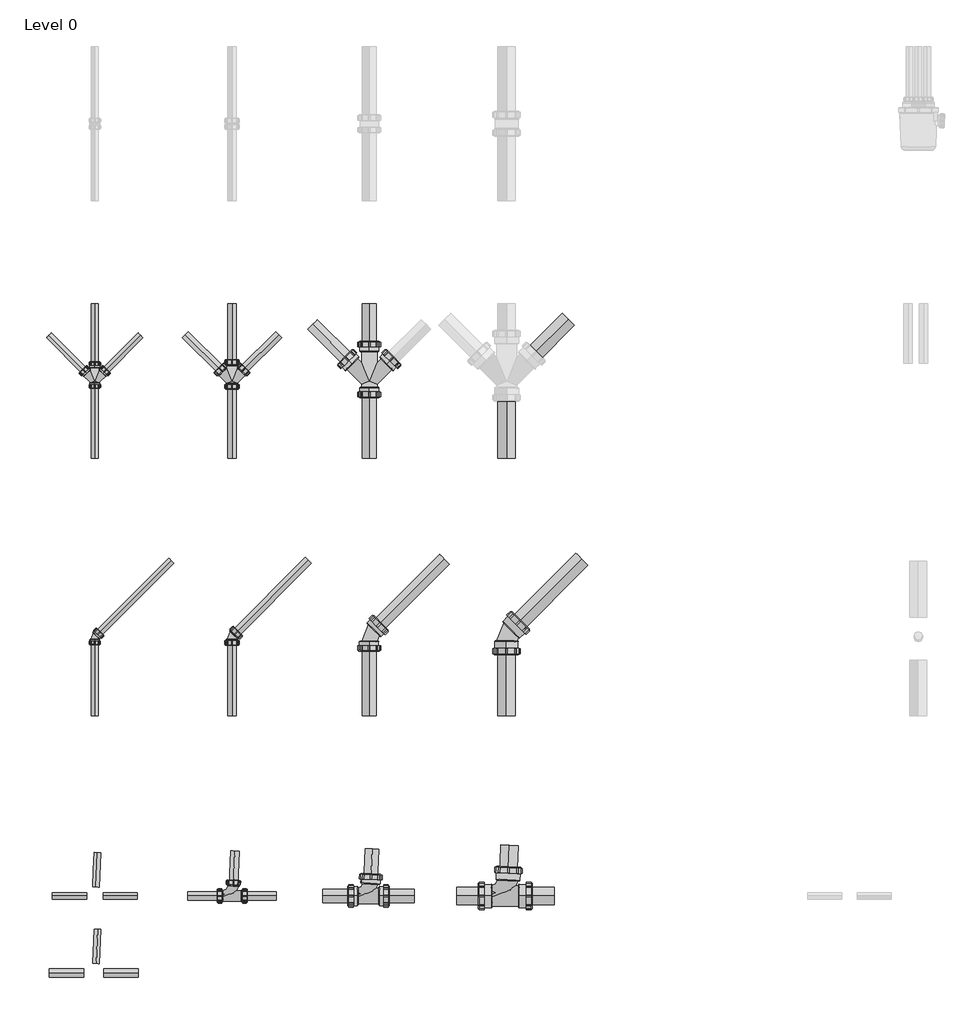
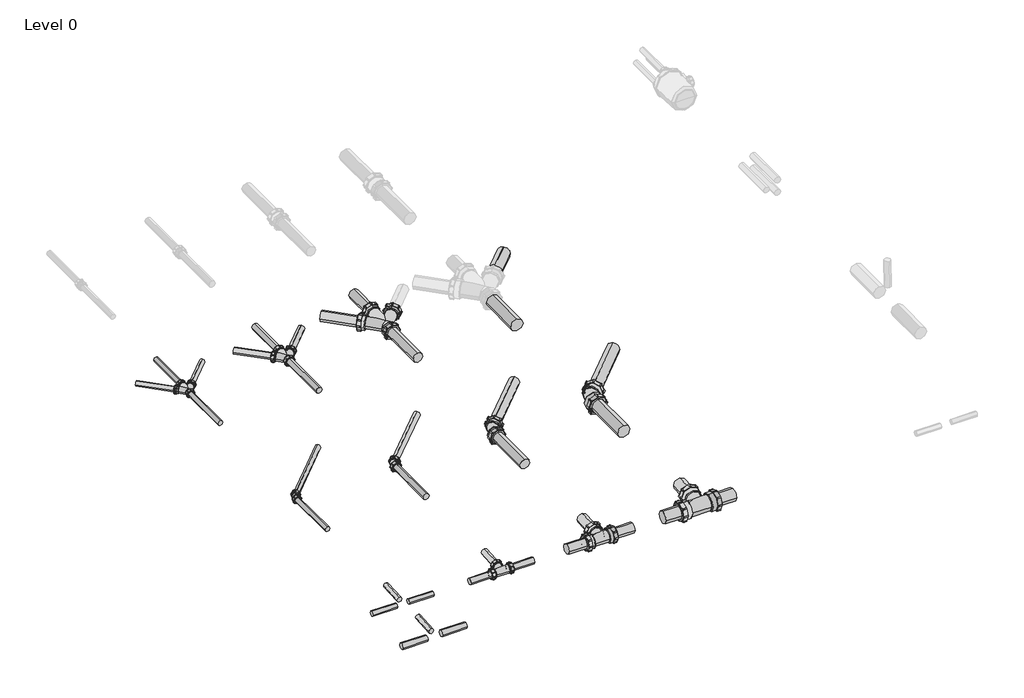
# One storey, part 1 of 5: 46 pipe fittings.
"""IFC4 building model written with IfcOpenShell, lengths in millimetres."""

from ifc_helpers import new_model, si_unit, point, frame, frame_2d, origin, place, context, project, spatial, circle_curve, trimmed, segment, composite_curve, outline, extrude, transform, mapped, element, save
from components import w191_1_5inch_38mm_0de2b571, w192_2inch_51mm_91547f29, w193_3inch_76mm_4dbc38d3, w194_4inch_102mm_52f977a8, w202_2inch_51mm_4147cbe4, w202_2inch_51mm_a334517c, w203_3inch_76mm_116432e9, w203_3inch_76mm_561039bf, w204_4inch_102mm_7354dc11, w204_4inch_102mm_a8dd6bf8, w381_1_5inch_38mm_807b89dd, w381_1_5inch_38mm_ffda3298, w382_2inch_51mm_2cd0ae31, w382_2inch_51mm_790bf67c, w383_3inch_76mm_12d81fef, w383_3inch_76mm_d16cb87b

model = new_model("IFC4")

# Units and contexts
model_context = context("Model", 3, world=origin())
ifc_project = project(units=[si_unit("LENGTHUNIT", "METRE", prefix="MILLI")], contexts=[model_context])

# Site, building, storey
site = spatial("IfcSite", under=ifc_project)
building = spatial("IfcBuilding", under=site)
storey = spatial("IfcBuildingStorey", under=building, Name="Level 0", Elevation=0.0)

# Pipe fittings
placement = place(None, origin())
element("IfcPipeFitting", 1, ObjectType="Vulcathene Mechanical Pipe", at=placement, inside=storey, context=model_context, shape_type="SweptSolid", body=[
    extrude(outline(composite_curve([segment(trimmed(circle_curve(frame_2d((0.0, -19657.9793828)), 20.0), [point((0.0, -19677.9793828))], [point((-20.0, -19657.9793828))], False, "CARTESIAN"), True, "CONTINUOUS"), segment(trimmed(circle_curve(frame_2d((0.0, -19657.9793828)), 20.0), [point((-20.0, -19657.9793828))], [point((0.0, -19637.9793828))], False, "CARTESIAN"), True, "CONTINUOUS"), segment(trimmed(circle_curve(frame_2d((0.0, -19657.9793828)), 20.0), [point((0.0, -19637.9793828))], [point((20.0, -19657.9793828))], False, "CARTESIAN"), True, "CONTINUOUS"), segment(trimmed(circle_curve(frame_2d((0.0, -19657.9793828)), 20.0), [point((20.0, -19657.9793828))], [point((0.0, -19677.9793828))], False, "CARTESIAN"), True, "CONTINUOUS")], self_intersect=False)), frame((0.0, 5214.6035033, 0.0), z_axis=(0.0, 1.0, 0.0), x_axis=(0.0, 0.0, 1.0)), (0.0, 0.0, 1.0), 430.1),
])
element("IfcPipeFitting", 2, ObjectType="Vulcathene Mechanical Pipe", at=placement, inside=storey, context=model_context, shape_type="SweptSolid", body=[
    extrude(outline(composite_curve([segment(trimmed(circle_curve(frame_2d((0.0, -18857.9793828)), 25.0), [point((0.0, -18882.9793828))], [point((-25.0, -18857.9793828))], False, "CARTESIAN"), True, "CONTINUOUS"), segment(trimmed(circle_curve(frame_2d((0.0, -18857.9793828)), 25.0), [point((-25.0, -18857.9793828))], [point((0.0, -18832.9793828))], False, "CARTESIAN"), True, "CONTINUOUS"), segment(trimmed(circle_curve(frame_2d((0.0, -18857.9793828)), 25.0), [point((0.0, -18832.9793828))], [point((25.0, -18857.9793828))], False, "CARTESIAN"), True, "CONTINUOUS"), segment(trimmed(circle_curve(frame_2d((0.0, -18857.9793828)), 25.0), [point((25.0, -18857.9793828))], [point((0.0, -18882.9793828))], False, "CARTESIAN"), True, "CONTINUOUS")], self_intersect=False)), frame((0.0, 5214.6035033, 0.0), z_axis=(0.0, 1.0, 0.0), x_axis=(0.0, 0.0, 1.0)), (0.0, 0.0, 1.0), 429.5),
])
element("IfcPipeFitting", 3, ObjectType="Vulcathene Mechanical Pipe", at=placement, inside=storey, context=model_context, shape_type="SweptSolid", body=[
    extrude(outline(composite_curve([segment(trimmed(circle_curve(frame_2d((0.0, -18057.9793828)), 40.0), [point((0.0, -18097.9793828))], [point((-40.0, -18057.9793828))], False, "CARTESIAN"), True, "CONTINUOUS"), segment(trimmed(circle_curve(frame_2d((0.0, -18057.9793828)), 40.0), [point((-40.0, -18057.9793828))], [point((0.0, -18017.9793828))], False, "CARTESIAN"), True, "CONTINUOUS"), segment(trimmed(circle_curve(frame_2d((0.0, -18057.9793828)), 40.0), [point((0.0, -18017.9793828))], [point((40.0, -18057.9793828))], False, "CARTESIAN"), True, "CONTINUOUS"), segment(trimmed(circle_curve(frame_2d((0.0, -18057.9793828)), 40.0), [point((40.0, -18057.9793828))], [point((0.0, -18097.9793828))], False, "CARTESIAN"), True, "CONTINUOUS")], self_intersect=False)), frame((0.0, 5214.6035033, 0.0), z_axis=(0.0, 1.0, 0.0), x_axis=(0.0, 0.0, 1.0)), (0.0, 0.0, 1.0), 387.3),
])
element("IfcPipeFitting", 4, ObjectType="Vulcathene Mechanical Pipe", at=placement, inside=storey, context=model_context, shape_type="SweptSolid", body=[
    extrude(outline(composite_curve([segment(trimmed(circle_curve(frame_2d((0.0, -17257.9793828)), 50.0), [point((0.0, -17307.9793828))], [point((-50.0, -17257.9793828))], False, "CARTESIAN"), True, "CONTINUOUS"), segment(trimmed(circle_curve(frame_2d((0.0, -17257.9793828)), 50.0), [point((-50.0, -17257.9793828))], [point((0.0, -17207.9793828))], False, "CARTESIAN"), True, "CONTINUOUS"), segment(trimmed(circle_curve(frame_2d((0.0, -17257.9793828)), 50.0), [point((0.0, -17207.9793828))], [point((50.0, -17257.9793828))], False, "CARTESIAN"), True, "CONTINUOUS"), segment(trimmed(circle_curve(frame_2d((0.0, -17257.9793828)), 50.0), [point((50.0, -17257.9793828))], [point((0.0, -17307.9793828))], False, "CARTESIAN"), True, "CONTINUOUS")], self_intersect=False)), frame((0.0, 5214.6035033, 0.0), z_axis=(0.0, 1.0, 0.0), x_axis=(0.0, 0.0, 1.0)), (0.0, 0.0, 1.0), 370.8),
])
element("IfcPipeFitting", 5, ObjectType="Vulcathene Mechanical Pipe", at=placement, inside=storey, context=model_context, shape_type="SweptSolid", body=[
    extrude(outline(composite_curve([segment(trimmed(circle_curve(frame_2d((0.0, 50.0)), 50.0), [point((50.0, 50.0))], [point((0.0, 0.0))], False, "CARTESIAN"), True, "CONTINUOUS"), segment(trimmed(circle_curve(frame_2d((0.0, 50.0)), 50.0), [point((0.0, 0.0))], [point((-50.0, 50.0))], False, "CARTESIAN"), True, "CONTINUOUS"), segment(trimmed(circle_curve(frame_2d((0.0, 50.0)), 50.0), [point((-50.0, 50.0))], [point((0.0, 100.0))], False, "CARTESIAN"), True, "CONTINUOUS"), segment(trimmed(circle_curve(frame_2d((0.0, 50.0)), 50.0), [point((0.0, 100.0))], [point((50.0, 50.0))], False, "CARTESIAN"), True, "CONTINUOUS")], self_intersect=False)), frame((-17109.9112229, 5812.6716632, 50.0), z_axis=(0.7071067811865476, 0.7071067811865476, 0.0), x_axis=(0.7071067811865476, -0.7071067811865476, 0.0)), (0.0, 0.0, 1.0), 300.0),
])
element("IfcPipeFitting", 6, ObjectType="Vulcathene Mechanical Pipe", at=placement, inside=storey, context=model_context, shape_type="SweptSolid", body=[
    extrude(outline(composite_curve([segment(trimmed(circle_curve(frame_2d((0.0, -18057.9793828)), 40.0), [point((0.0, -18097.9793828))], [point((-40.0, -18057.9793828))], False, "CARTESIAN"), True, "CONTINUOUS"), segment(trimmed(circle_curve(frame_2d((0.0, -18057.9793828)), 40.0), [point((-40.0, -18057.9793828))], [point((0.0, -18017.9793828))], False, "CARTESIAN"), True, "CONTINUOUS"), segment(trimmed(circle_curve(frame_2d((0.0, -18057.9793828)), 40.0), [point((0.0, -18017.9793828))], [point((40.0, -18057.9793828))], False, "CARTESIAN"), True, "CONTINUOUS"), segment(trimmed(circle_curve(frame_2d((0.0, -18057.9793828)), 40.0), [point((40.0, -18057.9793828))], [point((0.0, -18097.9793828))], False, "CARTESIAN"), True, "CONTINUOUS")], self_intersect=False)), frame((0.0, 5863.8035033, 0.0), z_axis=(0.0, 1.0, 0.0), x_axis=(0.0, 0.0, 1.0)), (0.0, 0.0, 1.0), 250.8),
])
element("IfcPipeFitting", 7, ObjectType="Vulcathene Mechanical Pipe", at=placement, inside=storey, context=model_context, shape_type="SweptSolid", body=[
    extrude(outline(composite_curve([segment(trimmed(circle_curve(frame_2d((0.0, 25.0)), 25.0), [point((25.0, 25.0))], [point((0.0, 0.0))], False, "CARTESIAN"), True, "CONTINUOUS"), segment(trimmed(circle_curve(frame_2d((0.0, 25.0)), 25.0), [point((0.0, 0.0))], [point((-25.0, 25.0))], False, "CARTESIAN"), True, "CONTINUOUS"), segment(trimmed(circle_curve(frame_2d((0.0, 25.0)), 25.0), [point((-25.0, 25.0))], [point((0.0, 50.0))], False, "CARTESIAN"), True, "CONTINUOUS"), segment(trimmed(circle_curve(frame_2d((0.0, 25.0)), 25.0), [point((0.0, 50.0))], [point((25.0, 25.0))], False, "CARTESIAN"), True, "CONTINUOUS")], self_intersect=False)), frame((-18798.4409919, 5724.1418942, 25.0), z_axis=(0.7071067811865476, 0.7071067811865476, 0.0), x_axis=(0.7071067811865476, -0.7071067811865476, 0.0)), (0.0, 0.0, 1.0), 300.0),
])
element("IfcPipeFitting", 8, ObjectType="Vulcathene Mechanical Pipe", at=placement, inside=storey, context=model_context, shape_type="SweptSolid", body=[
    extrude(outline(composite_curve([segment(trimmed(circle_curve(frame_2d((0.0, -18857.9793828)), 25.0), [point((0.0, -18882.9793828))], [point((-25.0, -18857.9793828))], False, "CARTESIAN"), True, "CONTINUOUS"), segment(trimmed(circle_curve(frame_2d((0.0, -18857.9793828)), 25.0), [point((-25.0, -18857.9793828))], [point((0.0, -18832.9793828))], False, "CARTESIAN"), True, "CONTINUOUS"), segment(trimmed(circle_curve(frame_2d((0.0, -18857.9793828)), 25.0), [point((0.0, -18832.9793828))], [point((25.0, -18857.9793828))], False, "CARTESIAN"), True, "CONTINUOUS"), segment(trimmed(circle_curve(frame_2d((0.0, -18857.9793828)), 25.0), [point((25.0, -18857.9793828))], [point((0.0, -18882.9793828))], False, "CARTESIAN"), True, "CONTINUOUS")], self_intersect=False)), frame((0.0, 5763.3035033, 0.0), z_axis=(0.0, 1.0, 0.0), x_axis=(0.0, 0.0, 1.0)), (0.0, 0.0, 1.0), 351.3),
])
element("IfcPipeFitting", 9, ObjectType="Vulcathene Mechanical Pipe", at=placement, inside=storey, context=model_context, shape_type="SweptSolid", body=[
    extrude(outline(composite_curve([segment(trimmed(circle_curve(frame_2d((0.0, 20.0)), 20.0), [point((20.0, 20.0))], [point((0.0, 0.0))], False, "CARTESIAN"), True, "CONTINUOUS"), segment(trimmed(circle_curve(frame_2d((0.0, 20.0)), 20.0), [point((0.0, 0.0))], [point((-20.0, 20.0))], False, "CARTESIAN"), True, "CONTINUOUS"), segment(trimmed(circle_curve(frame_2d((0.0, 20.0)), 20.0), [point((-20.0, 20.0))], [point((0.0, 40.0))], False, "CARTESIAN"), True, "CONTINUOUS"), segment(trimmed(circle_curve(frame_2d((0.0, 20.0)), 20.0), [point((0.0, 40.0))], [point((20.0, 20.0))], False, "CARTESIAN"), True, "CONTINUOUS")], self_intersect=False)), frame((-19603.3200287, 5719.2628574, 20.0), z_axis=(0.7071067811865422, 0.7071067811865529, 0.0), x_axis=(0.7071067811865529, -0.7071067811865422, 0.0)), (0.0, 0.0, 1.0), 300.0),
])
element("IfcPipeFitting", 10, ObjectType="Vulcathene Mechanical Pipe", at=placement, inside=storey, context=model_context, shape_type="SweptSolid", body=[
    extrude(outline(composite_curve([segment(trimmed(circle_curve(frame_2d((0.0, -19657.9793828)), 20.0), [point((0.0, -19677.9793828))], [point((-20.0, -19657.9793828))], False, "CARTESIAN"), True, "CONTINUOUS"), segment(trimmed(circle_curve(frame_2d((0.0, -19657.9793828)), 20.0), [point((-20.0, -19657.9793828))], [point((0.0, -19637.9793828))], False, "CARTESIAN"), True, "CONTINUOUS"), segment(trimmed(circle_curve(frame_2d((0.0, -19657.9793828)), 20.0), [point((0.0, -19637.9793828))], [point((20.0, -19657.9793828))], False, "CARTESIAN"), True, "CONTINUOUS"), segment(trimmed(circle_curve(frame_2d((0.0, -19657.9793828)), 20.0), [point((20.0, -19657.9793828))], [point((0.0, -19677.9793828))], False, "CARTESIAN"), True, "CONTINUOUS")], self_intersect=False)), frame((0.0, 5755.9035033, 0.0), z_axis=(0.0, 1.0, 0.0), x_axis=(0.0, 0.0, 1.0)), (0.0, 0.0, 1.0), 358.7),
])
element("IfcPipeFitting", 11, ObjectType="Vulcathene Mechanical Pipe", at=placement, inside=storey, context=model_context, shape_type="SweptSolid", body=[
    extrude(outline(composite_curve([segment(trimmed(circle_curve(frame_2d((0.0, 40.0)), 40.0), [point((40.0000001, 40.0))], [point((0.0, 0.0))], False, "CARTESIAN"), True, "CONTINUOUS"), segment(trimmed(circle_curve(frame_2d((0.0, 40.0)), 40.0), [point((0.0, 0.0))], [point((-39.9999999, 40.0))], False, "CARTESIAN"), True, "CONTINUOUS"), segment(trimmed(circle_curve(frame_2d((0.0, 40.0)), 40.0), [point((-39.9999999, 40.0))], [point((0.0, 80.0))], False, "CARTESIAN"), True, "CONTINUOUS"), segment(trimmed(circle_curve(frame_2d((0.0, 40.0)), 40.0), [point((0.0, 80.0))], [point((40.0000001, 40.0))], False, "CARTESIAN"), True, "CONTINUOUS")], self_intersect=False)), frame((-18176.4197687, 5783.0438891, 40.0), z_axis=(-0.7071067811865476, 0.7071067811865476, 0.0), x_axis=(0.7071067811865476, 0.7071067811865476, 0.0)), (0.0, 0.0, 1.0), 300.0),
])
element("IfcPipeFitting", 12, ObjectType="Vulcathene Mechanical Pipe", at=placement, inside=storey, context=model_context, shape_type="SweptSolid", body=[
    extrude(outline(composite_curve([segment(trimmed(circle_curve(frame_2d((0.0, 25.0)), 25.0), [point((25.0, 25.0))], [point((0.0, 0.0))], False, "CARTESIAN"), True, "CONTINUOUS"), segment(trimmed(circle_curve(frame_2d((0.0, 25.0)), 25.0), [point((0.0, 0.0))], [point((-25.0, 25.0))], False, "CARTESIAN"), True, "CONTINUOUS"), segment(trimmed(circle_curve(frame_2d((0.0, 25.0)), 25.0), [point((-25.0, 25.0))], [point((0.0, 50.0))], False, "CARTESIAN"), True, "CONTINUOUS"), segment(trimmed(circle_curve(frame_2d((0.0, 25.0)), 25.0), [point((0.0, 50.0))], [point((25.0, 25.0))], False, "CARTESIAN"), True, "CONTINUOUS")], self_intersect=False)), frame((-18917.5177738, 5724.1418942, 25.0), z_axis=(-0.7071067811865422, 0.7071067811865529, 0.0), x_axis=(0.7071067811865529, 0.7071067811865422, 0.0)), (0.0, 0.0, 1.0), 300.0),
])
element("IfcPipeFitting", 13, ObjectType="Vulcathene Mechanical Pipe", at=placement, inside=storey, context=model_context, shape_type="SweptSolid", body=[
    extrude(outline(composite_curve([segment(trimmed(circle_curve(frame_2d((0.0, 20.0)), 20.0), [point((20.0, 20.0))], [point((0.0, 0.0))], False, "CARTESIAN"), True, "CONTINUOUS"), segment(trimmed(circle_curve(frame_2d((0.0, 20.0)), 20.0), [point((0.0, 0.0))], [point((-20.0, 20.0))], False, "CARTESIAN"), True, "CONTINUOUS"), segment(trimmed(circle_curve(frame_2d((0.0, 20.0)), 20.0), [point((-20.0, 20.0))], [point((0.0, 40.0))], False, "CARTESIAN"), True, "CONTINUOUS"), segment(trimmed(circle_curve(frame_2d((0.0, 20.0)), 20.0), [point((0.0, 40.0))], [point((20.0, 20.0))], False, "CARTESIAN"), True, "CONTINUOUS")], self_intersect=False)), frame((-19712.638737, 5719.2628574, 20.0), z_axis=(-0.7071067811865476, 0.7071067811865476, 0.0), x_axis=(0.7071067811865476, 0.7071067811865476, 0.0)), (0.0, 0.0, 1.0), 300.0),
])
element("IfcPipeFitting", 14, ObjectType="Vulcathene Mechanical Pipe", at=placement, inside=storey, context=model_context, shape_type="SweptSolid", body=[
    extrude(outline(composite_curve([segment(trimmed(circle_curve(frame_2d((0.0, -19657.9793828)), 20.0), [point((0.0, -19677.9793828))], [point((-20.0, -19657.9793828))], False, "CARTESIAN"), True, "CONTINUOUS"), segment(trimmed(circle_curve(frame_2d((0.0, -19657.9793828)), 20.0), [point((-20.0, -19657.9793828))], [point((0.0, -19637.9793828))], False, "CARTESIAN"), True, "CONTINUOUS"), segment(trimmed(circle_curve(frame_2d((0.0, -19657.9793828)), 20.0), [point((0.0, -19637.9793828))], [point((20.0, -19657.9793828))], False, "CARTESIAN"), True, "CONTINUOUS"), segment(trimmed(circle_curve(frame_2d((0.0, -19657.9793828)), 20.0), [point((20.0, -19657.9793828))], [point((0.0, -19677.9793828))], False, "CARTESIAN"), True, "CONTINUOUS")], self_intersect=False)), frame((0.0, 3714.6035033, 0.0), z_axis=(0.0, 1.0, 0.0), x_axis=(0.0, 0.0, 1.0)), (0.0, 0.0, 1.0), 442.7198074),
])
element("IfcPipeFitting", 15, ObjectType="Vulcathene Mechanical Pipe", at=placement, inside=storey, context=model_context, shape_type="SweptSolid", body=[
    extrude(outline(composite_curve([segment(trimmed(circle_curve(frame_2d((0.0, -18857.9793828)), 25.0), [point((0.0, -18882.9793828))], [point((-25.0, -18857.9793828))], False, "CARTESIAN"), True, "CONTINUOUS"), segment(trimmed(circle_curve(frame_2d((0.0, -18857.9793828)), 25.0), [point((-25.0, -18857.9793828))], [point((0.0, -18832.9793828))], False, "CARTESIAN"), True, "CONTINUOUS"), segment(trimmed(circle_curve(frame_2d((0.0, -18857.9793828)), 25.0), [point((0.0, -18832.9793828))], [point((25.0, -18857.9793828))], False, "CARTESIAN"), True, "CONTINUOUS"), segment(trimmed(circle_curve(frame_2d((0.0, -18857.9793828)), 25.0), [point((25.0, -18857.9793828))], [point((0.0, -18882.9793828))], False, "CARTESIAN"), True, "CONTINUOUS")], self_intersect=False)), frame((0.0, 3714.6035033, 0.0), z_axis=(0.0, 1.0, 0.0), x_axis=(0.0, 0.0, 1.0)), (0.0, 0.0, 1.0), 440.9494873),
])
element("IfcPipeFitting", 16, ObjectType="Vulcathene Mechanical Pipe", at=placement, inside=storey, context=model_context, shape_type="SweptSolid", body=[
    extrude(outline(composite_curve([segment(trimmed(circle_curve(frame_2d((0.0, -18058.7826963)), 40.0), [point((0.0, -18098.7826963))], [point((-40.0, -18058.7826963))], False, "CARTESIAN"), True, "CONTINUOUS"), segment(trimmed(circle_curve(frame_2d((0.0, -18058.7826963)), 40.0), [point((-40.0, -18058.7826963))], [point((0.0, -18018.7826963))], False, "CARTESIAN"), True, "CONTINUOUS"), segment(trimmed(circle_curve(frame_2d((0.0, -18058.7826963)), 40.0), [point((0.0, -18018.7826963))], [point((40.0, -18058.7826963))], False, "CARTESIAN"), True, "CONTINUOUS"), segment(trimmed(circle_curve(frame_2d((0.0, -18058.7826963)), 40.0), [point((40.0, -18058.7826963))], [point((0.0, -18098.7826963))], False, "CARTESIAN"), True, "CONTINUOUS")], self_intersect=False)), frame((0.0, 3714.6035033, 0.0), z_axis=(0.0, 1.0, 0.0), x_axis=(0.0, 0.0, 1.0)), (0.0, 0.0, 1.0), 430.1188866),
])
element("IfcPipeFitting", 17, ObjectType="Vulcathene Mechanical Pipe", at=placement, inside=storey, context=model_context, shape_type="SweptSolid", body=[
    extrude(outline(composite_curve([segment(trimmed(circle_curve(frame_2d((0.0, -17258.7590684)), 50.0), [point((0.0, -17308.7590684))], [point((-50.0, -17258.7590684))], False, "CARTESIAN"), True, "CONTINUOUS"), segment(trimmed(circle_curve(frame_2d((0.0, -17258.7590684)), 50.0), [point((-50.0, -17258.7590684))], [point((0.0, -17208.7590684))], False, "CARTESIAN"), True, "CONTINUOUS"), segment(trimmed(circle_curve(frame_2d((0.0, -17258.7590684)), 50.0), [point((0.0, -17208.7590684))], [point((50.0, -17258.7590684))], False, "CARTESIAN"), True, "CONTINUOUS"), segment(trimmed(circle_curve(frame_2d((0.0, -17258.7590684)), 50.0), [point((50.0, -17258.7590684))], [point((0.0, -17308.7590684))], False, "CARTESIAN"), True, "CONTINUOUS")], self_intersect=False)), frame((0.0, 3714.6035033, 0.0), z_axis=(0.0, 1.0, 0.0), x_axis=(0.0, 0.0, 1.0)), (0.0, 0.0, 1.0), 430.3926212),
])
element("IfcPipeFitting", 18, ObjectType="Vulcathene Mechanical Pipe", at=placement, inside=storey, context=model_context, shape_type="SweptSolid", body=[
    extrude(outline(composite_curve([segment(trimmed(circle_curve(frame_2d((0.0, 20.0)), 20.0), [point((20.0, 20.0))], [point((0.0, 0.0))], False, "CARTESIAN"), True, "CONTINUOUS"), segment(trimmed(circle_curve(frame_2d((0.0, 20.0)), 20.0), [point((0.0, 0.0))], [point((-20.0, 20.0))], False, "CARTESIAN"), True, "CONTINUOUS"), segment(trimmed(circle_curve(frame_2d((0.0, 20.0)), 20.0), [point((-20.0, 20.0))], [point((0.0, 40.0))], False, "CARTESIAN"), True, "CONTINUOUS"), segment(trimmed(circle_curve(frame_2d((0.0, 20.0)), 20.0), [point((0.0, 40.0))], [point((20.0, 20.0))], False, "CARTESIAN"), True, "CONTINUOUS")], self_intersect=False)), frame((-19647.259491, 4183.2034188, 20.0), z_axis=(0.7069505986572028, 0.7072629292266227, 0.0), x_axis=(0.7072629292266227, -0.7069505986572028, 0.0)), (0.0, 0.0, 1.0), 615.6897128),
])
element("IfcPipeFitting", 19, ObjectType="Vulcathene Mechanical Pipe", at=placement, inside=storey, context=model_context, shape_type="SweptSolid", body=[
    extrude(outline(composite_curve([segment(trimmed(circle_curve(frame_2d((0.0, 25.0)), 25.0), [point((25.0, 25.0))], [point((0.0, 0.0))], False, "CARTESIAN"), True, "CONTINUOUS"), segment(trimmed(circle_curve(frame_2d((0.0, 25.0)), 25.0), [point((0.0, 0.0))], [point((-25.0, 25.0))], False, "CARTESIAN"), True, "CONTINUOUS"), segment(trimmed(circle_curve(frame_2d((0.0, 25.0)), 25.0), [point((-25.0, 25.0))], [point((0.0, 50.0))], False, "CARTESIAN"), True, "CONTINUOUS"), segment(trimmed(circle_curve(frame_2d((0.0, 25.0)), 25.0), [point((0.0, 50.0))], [point((25.0, 25.0))], False, "CARTESIAN"), True, "CONTINUOUS")], self_intersect=False)), frame((-18844.6527414, 4187.7263491, 25.0), z_axis=(0.7068619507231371, 0.7073515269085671, 0.0), x_axis=(0.7073515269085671, -0.7068619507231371, 0.0)), (0.0, 0.0, 1.0), 610.6629479),
])
element("IfcPipeFitting", 20, ObjectType="Vulcathene Mechanical Pipe", at=placement, inside=storey, context=model_context, shape_type="SweptSolid", body=[
    extrude(outline(composite_curve([segment(trimmed(circle_curve(frame_2d((0.0, 40.0)), 40.0), [point((40.0000001, 40.0))], [point((0.0, 0.0))], False, "CARTESIAN"), True, "CONTINUOUS"), segment(trimmed(circle_curve(frame_2d((0.0, 40.0)), 40.0), [point((0.0, 0.0))], [point((-39.9999999, 40.0))], False, "CARTESIAN"), True, "CONTINUOUS"), segment(trimmed(circle_curve(frame_2d((0.0, 40.0)), 40.0), [point((-39.9999999, 40.0))], [point((0.0, 80.0))], False, "CARTESIAN"), True, "CONTINUOUS"), segment(trimmed(circle_curve(frame_2d((0.0, 40.0)), 40.0), [point((0.0, 80.0))], [point((40.0000001, 40.0))], False, "CARTESIAN"), True, "CONTINUOUS")], self_intersect=False)), frame((-18028.2925123, 4218.3322058, 40.0), z_axis=(0.7071067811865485, 0.7071067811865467, 0.0), x_axis=(0.7071067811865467, -0.7071067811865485, 0.0)), (0.0, 0.0, 1.0), 577.6456375),
])
element("IfcPipeFitting", 21, ObjectType="Vulcathene Mechanical Pipe", at=placement, inside=storey, context=model_context, shape_type="SweptSolid", body=[
    extrude(outline(composite_curve([segment(trimmed(circle_curve(frame_2d((0.0, 50.0)), 50.0), [point((50.0, 50.0))], [point((0.0, 0.0))], False, "CARTESIAN"), True, "CONTINUOUS"), segment(trimmed(circle_curve(frame_2d((0.0, 50.0)), 50.0), [point((0.0, 0.0))], [point((-50.0, 50.0))], False, "CARTESIAN"), True, "CONTINUOUS"), segment(trimmed(circle_curve(frame_2d((0.0, 50.0)), 50.0), [point((-50.0, 50.0))], [point((0.0, 100.0))], False, "CARTESIAN"), True, "CONTINUOUS"), segment(trimmed(circle_curve(frame_2d((0.0, 50.0)), 50.0), [point((0.0, 100.0))], [point((50.0, 50.0))], False, "CARTESIAN"), True, "CONTINUOUS")], self_intersect=False)), frame((-17228.7082242, 4217.5452802, 50.0), z_axis=(0.7071067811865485, 0.7071067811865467, 0.0), x_axis=(0.7071067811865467, -0.7071067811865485, 0.0)), (0.0, 0.0, 1.0), 578.4887888),
])
element("IfcPipeFitting", 22, ObjectType="Vulcathene Mechanical Pipe", at=placement, inside=storey, context=model_context, shape_type="SweptSolid", body=[
    extrude(outline(composite_curve([segment(trimmed(circle_curve(frame_2d((2664.602162, 0.0)), 20.0), [point((2644.602162, 0.0))], [point((2664.602162, 20.0))], False, "CARTESIAN"), True, "CONTINUOUS"), segment(trimmed(circle_curve(frame_2d((2664.602162, 0.0)), 20.0), [point((2664.602162, 20.0))], [point((2684.602162, 0.0))], False, "CARTESIAN"), True, "CONTINUOUS"), segment(trimmed(circle_curve(frame_2d((2664.602162, 0.0)), 20.0), [point((2684.602162, 0.0))], [point((2664.602162, -20.0))], False, "CARTESIAN"), True, "CONTINUOUS"), segment(trimmed(circle_curve(frame_2d((2664.602162, 0.0)), 20.0), [point((2664.602162, -20.0))], [point((2644.602162, 0.0))], False, "CARTESIAN"), True, "CONTINUOUS")], self_intersect=False)), frame((-19609.1595989, 0.0, 0.0), z_axis=(1.0, 0.0, 0.0), x_axis=(0.0, 1.0, 0.0)), (0.0, 0.0, 1.0), 200.0),
])
element("IfcPipeFitting", 23, ObjectType="Vulcathene Mechanical Pipe", at=placement, inside=storey, context=model_context, shape_type="SweptSolid", body=[
    extrude(outline(composite_curve([segment(trimmed(circle_curve(frame_2d((0.0, 20.0)), 20.0), [point((20.0000001, 20.0))], [point((0.0, 0.0))], False, "CARTESIAN"), True, "CONTINUOUS"), segment(trimmed(circle_curve(frame_2d((0.0, 20.0)), 20.0), [point((0.0, 0.0))], [point((-20.0, 20.0))], False, "CARTESIAN"), True, "CONTINUOUS"), segment(trimmed(circle_curve(frame_2d((0.0, 20.0)), 20.0), [point((-20.0, 20.0))], [point((0.0, 40.0))], False, "CARTESIAN"), True, "CONTINUOUS"), segment(trimmed(circle_curve(frame_2d((0.0, 20.0)), 20.0), [point((0.0, 40.0))], [point((20.0000001, 20.0))], False, "CARTESIAN"), True, "CONTINUOUS")], self_intersect=False)), frame((-19650.8119468, 2717.2030957, 20.0), z_axis=(0.043619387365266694, 0.9990482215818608, 0.0), x_axis=(0.9990482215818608, -0.043619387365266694, 0.0)), (0.0, 0.0, 1.0), 200.0),
])
element("IfcPipeFitting", 24, ObjectType="Vulcathene Mechanical Pipe", at=placement, inside=storey, context=model_context, shape_type="SweptSolid", body=[
    extrude(outline(composite_curve([segment(trimmed(circle_curve(frame_2d((2664.602162, 0.0)), 20.0), [point((2644.602162, 0.0))], [point((2664.602162, 20.0))], False, "CARTESIAN"), True, "CONTINUOUS"), segment(trimmed(circle_curve(frame_2d((2664.602162, 0.0)), 20.0), [point((2664.602162, 20.0))], [point((2684.602162, 0.0))], False, "CARTESIAN"), True, "CONTINUOUS"), segment(trimmed(circle_curve(frame_2d((2664.602162, 0.0)), 20.0), [point((2684.602162, 0.0))], [point((2664.602162, -20.0))], False, "CARTESIAN"), True, "CONTINUOUS"), segment(trimmed(circle_curve(frame_2d((2664.602162, 0.0)), 20.0), [point((2664.602162, -20.0))], [point((2644.602162, 0.0))], False, "CARTESIAN"), True, "CONTINUOUS")], self_intersect=False)), frame((-19905.7595989, 0.0, 0.0), z_axis=(1.0, 0.0, 0.0), x_axis=(0.0, 1.0, 0.0)), (0.0, 0.0, 1.0), 200.0),
])
element("IfcPipeFitting", 25, ObjectType="Vulcathene Mechanical Pipe", at=placement, inside=storey, context=model_context, shape_type="SweptSolid", body=[
    extrude(outline(composite_curve([segment(trimmed(circle_curve(frame_2d((0.0, 25.0)), 25.0), [point((25.0, 25.0))], [point((0.0, 0.0))], False, "CARTESIAN"), True, "CONTINUOUS"), segment(trimmed(circle_curve(frame_2d((0.0, 25.0)), 25.0), [point((0.0, 0.0))], [point((-25.0, 25.0))], False, "CARTESIAN"), True, "CONTINUOUS"), segment(trimmed(circle_curve(frame_2d((0.0, 25.0)), 25.0), [point((-25.0, 25.0))], [point((0.0, 50.0))], False, "CARTESIAN"), True, "CONTINUOUS"), segment(trimmed(circle_curve(frame_2d((0.0, 25.0)), 25.0), [point((0.0, 50.0))], [point((25.0, 25.0))], False, "CARTESIAN"), True, "CONTINUOUS")], self_intersect=False)), frame((-18850.4069089, 2726.4799877, 25.0), z_axis=(0.043619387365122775, 0.9990482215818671, 0.0), x_axis=(0.9990482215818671, -0.043619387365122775, 0.0)), (0.0, 0.0, 1.0), 200.0),
])
element("IfcPipeFitting", 26, ObjectType="Vulcathene Mechanical Pipe", at=placement, inside=storey, context=model_context, shape_type="SweptSolid", body=[
    extrude(outline(composite_curve([segment(trimmed(circle_curve(frame_2d((2664.602162, 0.0)), 25.0), [point((2639.602162, 0.0))], [point((2664.602162, 25.0))], False, "CARTESIAN"), True, "CONTINUOUS"), segment(trimmed(circle_curve(frame_2d((2664.602162, 0.0)), 25.0), [point((2664.602162, 25.0))], [point((2689.602162, 0.0))], False, "CARTESIAN"), True, "CONTINUOUS"), segment(trimmed(circle_curve(frame_2d((2664.602162, 0.0)), 25.0), [point((2689.602162, 0.0))], [point((2664.602162, -25.0))], False, "CARTESIAN"), True, "CONTINUOUS"), segment(trimmed(circle_curve(frame_2d((2664.602162, 0.0)), 25.0), [point((2664.602162, -25.0))], [point((2639.602162, 0.0))], False, "CARTESIAN"), True, "CONTINUOUS")], self_intersect=False)), frame((-18799.2453288, 0.0, 0.0), z_axis=(1.0, 0.0, 0.0), x_axis=(0.0, 1.0, 0.0)), (0.0, 0.0, 1.0), 200.0),
])
element("IfcPipeFitting", 27, ObjectType="Vulcathene Mechanical Pipe", at=placement, inside=storey, context=model_context, shape_type="SweptSolid", body=[
    extrude(outline(composite_curve([segment(trimmed(circle_curve(frame_2d((2664.602162, 0.0)), 25.0), [point((2639.602162, 0.0))], [point((2664.602162, 25.0))], False, "CARTESIAN"), True, "CONTINUOUS"), segment(trimmed(circle_curve(frame_2d((2664.602162, 0.0)), 25.0), [point((2664.602162, 25.0))], [point((2689.602162, 0.0))], False, "CARTESIAN"), True, "CONTINUOUS"), segment(trimmed(circle_curve(frame_2d((2664.602162, 0.0)), 25.0), [point((2689.602162, 0.0))], [point((2664.602162, -25.0))], False, "CARTESIAN"), True, "CONTINUOUS"), segment(trimmed(circle_curve(frame_2d((2664.602162, 0.0)), 25.0), [point((2664.602162, -25.0))], [point((2639.602162, 0.0))], False, "CARTESIAN"), True, "CONTINUOUS")], self_intersect=False)), frame((-19115.0453288, 0.0, 0.0), z_axis=(1.0, 0.0, 0.0), x_axis=(0.0, 1.0, 0.0)), (0.0, 0.0, 1.0), 200.0),
])
element("IfcPipeFitting", 28, ObjectType="Vulcathene Mechanical Pipe", at=placement, inside=storey, context=model_context, shape_type="SweptSolid", body=[
    extrude(outline(composite_curve([segment(trimmed(circle_curve(frame_2d((0.0, 40.0)), 40.0), [point((40.0, 40.0))], [point((0.0, 0.0))], False, "CARTESIAN"), True, "CONTINUOUS"), segment(trimmed(circle_curve(frame_2d((0.0, 40.0)), 40.0), [point((0.0, 0.0))], [point((-39.9999999, 40.0))], False, "CARTESIAN"), True, "CONTINUOUS"), segment(trimmed(circle_curve(frame_2d((0.0, 40.0)), 40.0), [point((-39.9999999, 40.0))], [point((0.0, 80.0))], False, "CARTESIAN"), True, "CONTINUOUS"), segment(trimmed(circle_curve(frame_2d((0.0, 40.0)), 40.0), [point((0.0, 80.0))], [point((40.0, 40.0))], False, "CARTESIAN"), True, "CONTINUOUS")], self_intersect=False)), frame((-18050.6590369, 2739.1042118, 40.0), z_axis=(0.043619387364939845, 0.9990482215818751, 0.0), x_axis=(0.9990482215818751, -0.043619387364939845, 0.0)), (0.0, 0.0, 1.0), 200.0),
])
element("IfcPipeFitting", 29, ObjectType="Vulcathene Mechanical Pipe", at=placement, inside=storey, context=model_context, shape_type="SweptSolid", body=[
    extrude(outline(composite_curve([segment(trimmed(circle_curve(frame_2d((2664.602162, 0.0)), 40.0), [point((2624.602162, 0.0))], [point((2664.602162, 40.0))], False, "CARTESIAN"), True, "CONTINUOUS"), segment(trimmed(circle_curve(frame_2d((2664.602162, 0.0)), 40.0), [point((2664.602162, 40.0))], [point((2704.602162, 0.0))], False, "CARTESIAN"), True, "CONTINUOUS"), segment(trimmed(circle_curve(frame_2d((2664.602162, 0.0)), 40.0), [point((2704.602162, 0.0))], [point((2664.602162, -40.0))], False, "CARTESIAN"), True, "CONTINUOUS"), segment(trimmed(circle_curve(frame_2d((2664.602162, 0.0)), 40.0), [point((2664.602162, -40.0))], [point((2624.602162, 0.0))], False, "CARTESIAN"), True, "CONTINUOUS")], self_intersect=False)), frame((-17996.4848933, 0.0, 0.0), z_axis=(1.0, 0.0, 0.0), x_axis=(0.0, 1.0, 0.0)), (0.0, 0.0, 1.0), 200.0),
])
element("IfcPipeFitting", 30, ObjectType="Vulcathene Mechanical Pipe", at=placement, inside=storey, context=model_context, shape_type="SweptSolid", body=[
    extrude(outline(composite_curve([segment(trimmed(circle_curve(frame_2d((2664.602162, 0.0)), 40.0), [point((2624.602162, 0.0))], [point((2664.602162, 40.0))], False, "CARTESIAN"), True, "CONTINUOUS"), segment(trimmed(circle_curve(frame_2d((2664.602162, 0.0)), 40.0), [point((2664.602162, 40.0))], [point((2704.602162, 0.0))], False, "CARTESIAN"), True, "CONTINUOUS"), segment(trimmed(circle_curve(frame_2d((2664.602162, 0.0)), 40.0), [point((2704.602162, 0.0))], [point((2664.602162, -40.0))], False, "CARTESIAN"), True, "CONTINUOUS"), segment(trimmed(circle_curve(frame_2d((2664.602162, 0.0)), 40.0), [point((2664.602162, -40.0))], [point((2624.602162, 0.0))], False, "CARTESIAN"), True, "CONTINUOUS")], self_intersect=False)), frame((-18328.4848933, 0.0, 0.0), z_axis=(1.0, 0.0, 0.0), x_axis=(0.0, 1.0, 0.0)), (0.0, 0.0, 1.0), 200.0),
])
element("IfcPipeFitting", 31, ObjectType="Vulcathene Mechanical Pipe", at=placement, inside=storey, context=model_context, shape_type="SweptSolid", body=[
    extrude(outline(composite_curve([segment(trimmed(circle_curve(frame_2d((0.0, 50.0)), 50.0), [point((50.0, 50.0))], [point((0.0, 0.0))], False, "CARTESIAN"), True, "CONTINUOUS"), segment(trimmed(circle_curve(frame_2d((0.0, 50.0)), 50.0), [point((0.0, 0.0))], [point((-50.0, 50.0))], False, "CARTESIAN"), True, "CONTINUOUS"), segment(trimmed(circle_curve(frame_2d((0.0, 50.0)), 50.0), [point((-50.0, 50.0))], [point((0.0, 100.0))], False, "CARTESIAN"), True, "CONTINUOUS"), segment(trimmed(circle_curve(frame_2d((0.0, 50.0)), 50.0), [point((0.0, 100.0))], [point((50.0, 50.0))], False, "CARTESIAN"), True, "CONTINUOUS")], self_intersect=False)), frame((-17249.733469, 2759.762033, 50.0), z_axis=(0.04361938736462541, 0.9990482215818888, 0.0), x_axis=(0.9990482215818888, -0.04361938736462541, 0.0)), (0.0, 0.0, 1.0), 200.0),
])
element("IfcPipeFitting", 32, ObjectType="Vulcathene Mechanical Pipe", at=placement, inside=storey, context=model_context, shape_type="SweptSolid", body=[
    extrude(outline(composite_curve([segment(trimmed(circle_curve(frame_2d((2664.602162, 0.0)), 50.0), [point((2614.602162, 0.0))], [point((2664.602162, 50.0))], False, "CARTESIAN"), True, "CONTINUOUS"), segment(trimmed(circle_curve(frame_2d((2664.602162, 0.0)), 50.0), [point((2664.602162, 50.0))], [point((2714.602162, 0.0))], False, "CARTESIAN"), True, "CONTINUOUS"), segment(trimmed(circle_curve(frame_2d((2664.602162, 0.0)), 50.0), [point((2714.602162, 0.0))], [point((2664.602162, -50.0))], False, "CARTESIAN"), True, "CONTINUOUS"), segment(trimmed(circle_curve(frame_2d((2664.602162, 0.0)), 50.0), [point((2664.602162, -50.0))], [point((2614.602162, 0.0))], False, "CARTESIAN"), True, "CONTINUOUS")], self_intersect=False)), frame((-17182.4387671, 0.0, 0.0), z_axis=(1.0, 0.0, 0.0), x_axis=(0.0, 1.0, 0.0)), (0.0, 0.0, 1.0), 201.0),
])
element("IfcPipeFitting", 33, ObjectType="Vulcathene Mechanical Pipe", at=placement, inside=storey, context=model_context, shape_type="SweptSolid", body=[
    extrude(outline(composite_curve([segment(trimmed(circle_curve(frame_2d((2664.602162, 0.0)), 50.0), [point((2614.602162, 0.0))], [point((2664.602162, 50.0))], False, "CARTESIAN"), True, "CONTINUOUS"), segment(trimmed(circle_curve(frame_2d((2664.602162, 0.0)), 50.0), [point((2664.602162, 50.0))], [point((2714.602162, 0.0))], False, "CARTESIAN"), True, "CONTINUOUS"), segment(trimmed(circle_curve(frame_2d((2664.602162, 0.0)), 50.0), [point((2714.602162, 0.0))], [point((2664.602162, -50.0))], False, "CARTESIAN"), True, "CONTINUOUS"), segment(trimmed(circle_curve(frame_2d((2664.602162, 0.0)), 50.0), [point((2664.602162, -50.0))], [point((2614.602162, 0.0))], False, "CARTESIAN"), True, "CONTINUOUS")], self_intersect=False)), frame((-17549.1387671, 0.0, 0.0), z_axis=(1.0, 0.0, 0.0), x_axis=(0.0, 1.0, 0.0)), (0.0, 0.0, 1.0), 200.0),
])
element("IfcPipeFitting", 34, ObjectType="Vulcathene Mechanical Pipe", at=placement, inside=storey, context=model_context, shape_type="SweptSolid", body=[
    extrude(outline(composite_curve([segment(trimmed(circle_curve(frame_2d((2214.6035033, 0.0)), 25.0), [point((2189.6035033, 0.0))], [point((2214.6035033, 25.0))], False, "CARTESIAN"), True, "CONTINUOUS"), segment(trimmed(circle_curve(frame_2d((2214.6035033, 0.0)), 25.0), [point((2214.6035033, 25.0))], [point((2239.6035033, 0.0))], False, "CARTESIAN"), True, "CONTINUOUS"), segment(trimmed(circle_curve(frame_2d((2214.6035033, 0.0)), 25.0), [point((2239.6035033, 0.0))], [point((2214.6035033, -25.0))], False, "CARTESIAN"), True, "CONTINUOUS"), segment(trimmed(circle_curve(frame_2d((2214.6035033, 0.0)), 25.0), [point((2214.6035033, -25.0))], [point((2189.6035033, 0.0))], False, "CARTESIAN"), True, "CONTINUOUS")], self_intersect=False)), frame((-19605.0930367, 0.0, 0.0), z_axis=(1.0, 0.0, 0.0), x_axis=(0.0, 1.0, 0.0)), (0.0, 0.0, 1.0), 200.0),
])
element("IfcPipeFitting", 35, ObjectType="Vulcathene Mechanical Pipe", at=placement, inside=storey, context=model_context, shape_type="SweptSolid", body=[
    extrude(outline(composite_curve([segment(trimmed(circle_curve(frame_2d((0.0, 20.0)), 20.0), [point((20.0, 20.0))], [point((0.0, 0.0))], False, "CARTESIAN"), True, "CONTINUOUS"), segment(trimmed(circle_curve(frame_2d((0.0, 20.0)), 20.0), [point((0.0, 0.0))], [point((-20.0, 20.0))], False, "CARTESIAN"), True, "CONTINUOUS"), segment(trimmed(circle_curve(frame_2d((0.0, 20.0)), 20.0), [point((-20.0, 20.0))], [point((0.0, 40.0))], False, "CARTESIAN"), True, "CONTINUOUS"), segment(trimmed(circle_curve(frame_2d((0.0, 20.0)), 20.0), [point((0.0, 40.0))], [point((20.0, 20.0))], False, "CARTESIAN"), True, "CONTINUOUS")], self_intersect=False)), frame((-19650.6490965, 2270.9343213, 20.0), z_axis=(0.04361938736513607, 0.9990482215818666, 0.0), x_axis=(0.9990482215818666, -0.04361938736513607, 0.0)), (0.0, 0.0, 1.0), 200.0),
])
element("IfcPipeFitting", 36, ObjectType="Vulcathene Mechanical Pipe", at=placement, inside=storey, context=model_context, shape_type="SweptSolid", body=[
    extrude(outline(composite_curve([segment(trimmed(circle_curve(frame_2d((2214.6035033, 0.0)), 25.0), [point((2189.6035033, 0.0))], [point((2214.6035033, 25.0))], False, "CARTESIAN"), True, "CONTINUOUS"), segment(trimmed(circle_curve(frame_2d((2214.6035033, 0.0)), 25.0), [point((2214.6035033, 25.0))], [point((2239.6035033, 0.0))], False, "CARTESIAN"), True, "CONTINUOUS"), segment(trimmed(circle_curve(frame_2d((2214.6035033, 0.0)), 25.0), [point((2239.6035033, 0.0))], [point((2214.6035033, -25.0))], False, "CARTESIAN"), True, "CONTINUOUS"), segment(trimmed(circle_curve(frame_2d((2214.6035033, 0.0)), 25.0), [point((2214.6035033, -25.0))], [point((2189.6035033, 0.0))], False, "CARTESIAN"), True, "CONTINUOUS")], self_intersect=False)), frame((-19921.9930367, 0.0, 0.0), z_axis=(1.0, 0.0, 0.0), x_axis=(0.0, 1.0, 0.0)), (0.0, 0.0, 1.0), 200.0),
])
w191_1_5inch_38mm_shape = w191_1_5inch_38mm_0de2b571(model_context)
element("IfcPipeFitting", 37, ObjectType="Durapipe_PipeFitting_VulcatheneMechanical_135SlowBend_W19 : W191_1.5Inch_38mm", at=placement, inside=storey, context=model_context, shape_type="MappedRepresentation", body=[
    mapped(w191_1_5inch_38mm_shape, transform((-19657.9793828, 4164.6035033, 0.0), x_axis=(0.0, 1.0, 0.0), y_axis=(1.0, 0.0, 0.0), z_axis=(0.0, 0.0, -1.0))),
])
w192_2inch_51mm_shape = w192_2inch_51mm_91547f29(model_context)
element("IfcPipeFitting", 38, ObjectType="Durapipe_PipeFitting_VulcatheneMechanical_135SlowBend_W19 : W192_2Inch_51mm", at=placement, inside=storey, context=model_context, shape_type="MappedRepresentation", body=[
    mapped(w192_2inch_51mm_shape, transform((-18857.9793828, 4164.6035033, 0.0), x_axis=(0.0, 1.0, 0.0), y_axis=(1.0, 0.0, 0.0), z_axis=(0.0, 0.0, -1.0))),
])
w193_3inch_76mm_shape = w193_3inch_76mm_4dbc38d3(model_context)
element("IfcPipeFitting", 39, ObjectType="Durapipe_PipeFitting_VulcatheneMechanical_135SlowBend_W19 : W193_3Inch_76mm", at=placement, inside=storey, context=model_context, shape_type="MappedRepresentation", body=[
    mapped(w193_3inch_76mm_shape, transform((-18058.7826963, 4165.4291673, 0.0), x_axis=(0.0, 1.0, 0.0), y_axis=(1.0, 0.0, 0.0), z_axis=(0.0, 0.0, -1.0))),
])
w194_4inch_102mm_shape = w194_4inch_102mm_52f977a8(model_context)
element("IfcPipeFitting", 40, ObjectType="Durapipe_PipeFitting_VulcatheneMechanical_135SlowBend_W19 : W194_4Inch_102mm", at=placement, inside=storey, context=model_context, shape_type="MappedRepresentation", body=[
    mapped(w194_4inch_102mm_shape, transform((-17258.7590684, 4165.4045334, 0.0), x_axis=(0.0, 1.0, 0.0), y_axis=(1.0, 0.0, 0.0), z_axis=(0.0, 0.0, -1.0))),
])
w202_2inch_51mm_shape = w202_2inch_51mm_4147cbe4(model_context)
w202_2inch_51mm_2_shape = w202_2inch_51mm_a334517c(model_context)
element("IfcPipeFitting", 41, ObjectType="Durapipe_PipeFitting_VulcatheneMechanical_92.5EqualSweepTee_W20 : W202_2Inch_51mm", at=placement, inside=storey, context=model_context, shape_type="MappedRepresentation", body=[
    mapped(w202_2inch_51mm_shape, transform((-18853.1085531, 2664.602162, 0.0), x_axis=(1.0, 0.0, 0.0), y_axis=(0.0, 1.0, 0.0), z_axis=(0.0, 0.0, 1.0))),
    mapped(w202_2inch_51mm_2_shape, transform((-18853.1085531, 2664.602162, 0.0), x_axis=(1.0, 0.0, 0.0), y_axis=(0.0, 1.0, 0.0), z_axis=(0.0, 0.0, 1.0))),
])
w203_3inch_76mm_shape = w203_3inch_76mm_116432e9(model_context)
w203_3inch_76mm_2_shape = w203_3inch_76mm_561039bf(model_context)
element("IfcPipeFitting", 42, ObjectType="Durapipe_PipeFitting_VulcatheneMechanical_92.5EqualSweepTee_W20 : W203_3Inch_76mm", at=placement, inside=storey, context=model_context, shape_type="MappedRepresentation", body=[
    mapped(w203_3inch_76mm_shape, transform((-18053.9118666, 2664.602162, 0.0), x_axis=(1.0, 0.0, 0.0), y_axis=(0.0, 0.9999999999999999, 0.0), z_axis=(0.0, 0.0, 0.9999999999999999))),
    mapped(w203_3inch_76mm_2_shape, transform((-18053.9118666, 2664.602162, 0.0), x_axis=(1.0, 0.0, 0.0), y_axis=(0.0, 0.9999999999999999, 0.0), z_axis=(0.0, 0.0, 0.9999999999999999))),
])
w204_4inch_102mm_shape = w204_4inch_102mm_7354dc11(model_context)
w204_4inch_102mm_2_shape = w204_4inch_102mm_a8dd6bf8(model_context)
element("IfcPipeFitting", 43, ObjectType="Durapipe_PipeFitting_VulcatheneMechanical_92.5EqualSweepTee_W20 : W204_4Inch_102mm", at=placement, inside=storey, context=model_context, shape_type="MappedRepresentation", body=[
    mapped(w204_4inch_102mm_shape, transform((-17253.8882387, 2664.602162, 0.0), x_axis=(1.0, 0.0, 0.0), y_axis=(0.0, 1.0, 0.0), z_axis=(0.0, 0.0, 1.0))),
    mapped(w204_4inch_102mm_2_shape, transform((-17253.8882387, 2664.602162, 0.0), x_axis=(1.0, 0.0, 0.0), y_axis=(0.0, 1.0, 0.0), z_axis=(0.0, 0.0, 1.0))),
])
w381_1_5inch_38mm_shape = w381_1_5inch_38mm_807b89dd(model_context)
w381_1_5inch_38mm_2_shape = w381_1_5inch_38mm_ffda3298(model_context)
element("IfcPipeFitting", 44, ObjectType="Durapipe_PipeFitting_VulcatheneMechanical_DoubleWye_W38 : W381_1.5Inch_38mm", at=placement, inside=storey, context=model_context, shape_type="MappedRepresentation", body=[
    mapped(w381_1_5inch_38mm_shape, transform((-19657.9793828, 5664.6035033, 0.0), x_axis=(0.0, 1.0, 0.0), y_axis=(1.0, 0.0, 0.0), z_axis=(0.0, 0.0, -1.0))),
    mapped(w381_1_5inch_38mm_2_shape, transform((-19657.9793828, 5664.6035033, 0.0), x_axis=(0.0, 1.0, 0.0), y_axis=(1.0, 0.0, 0.0), z_axis=(0.0, 0.0, -1.0))),
])
w382_2inch_51mm_shape = w382_2inch_51mm_2cd0ae31(model_context)
w382_2inch_51mm_2_shape = w382_2inch_51mm_790bf67c(model_context)
element("IfcPipeFitting", 45, ObjectType="Durapipe_PipeFitting_VulcatheneMechanical_DoubleWye_W38 : W382_2Inch_51mm", at=placement, inside=storey, context=model_context, shape_type="MappedRepresentation", body=[
    mapped(w382_2inch_51mm_shape, transform((-18857.9793828, 5664.6035033, 0.0), x_axis=(0.0, 1.0, 0.0), y_axis=(1.0, 0.0, 0.0), z_axis=(0.0, 0.0, -1.0))),
    mapped(w382_2inch_51mm_2_shape, transform((-18857.9793828, 5664.6035033, 0.0), x_axis=(0.0, 1.0, 0.0), y_axis=(1.0, 0.0, 0.0), z_axis=(0.0, 0.0, -1.0))),
])
w383_3inch_76mm_shape = w383_3inch_76mm_12d81fef(model_context)
w383_3inch_76mm_2_shape = w383_3inch_76mm_d16cb87b(model_context)
element("IfcPipeFitting", 46, ObjectType="Durapipe_PipeFitting_VulcatheneMechanical_DoubleWye_W38 : W383_3Inch_76mm", at=placement, inside=storey, context=model_context, shape_type="MappedRepresentation", body=[
    mapped(w383_3inch_76mm_shape, transform((-18057.9793828, 5664.6035033, 0.0), x_axis=(0.0, 1.0, 0.0), y_axis=(1.0, 0.0, 0.0), z_axis=(0.0, 0.0, -1.0))),
    mapped(w383_3inch_76mm_2_shape, transform((-18057.9793828, 5664.6035033, 0.0), x_axis=(0.0, 1.0, 0.0), y_axis=(1.0, 0.0, 0.0), z_axis=(0.0, 0.0, -1.0))),
])

save(model, "model.ifc")
